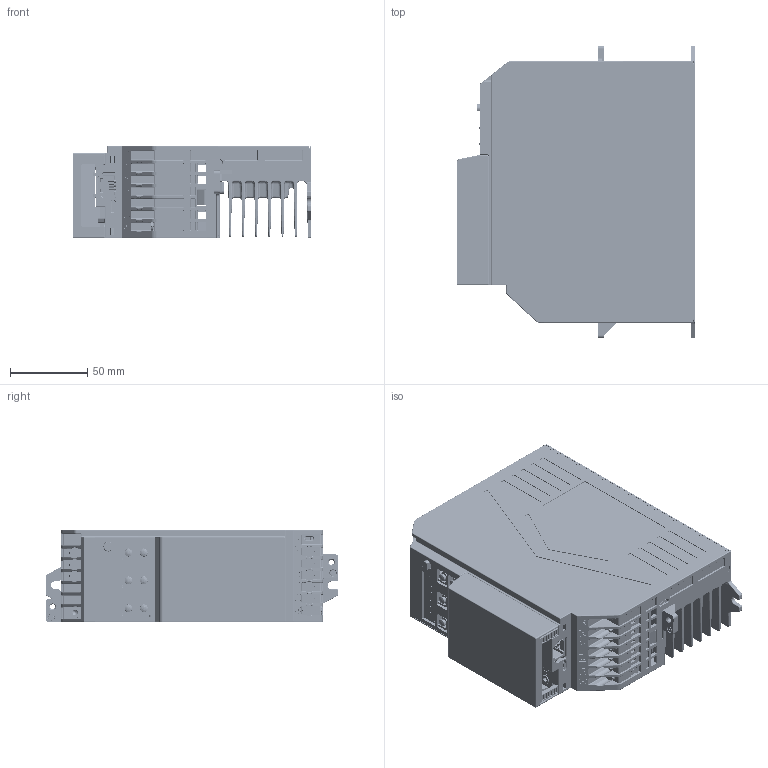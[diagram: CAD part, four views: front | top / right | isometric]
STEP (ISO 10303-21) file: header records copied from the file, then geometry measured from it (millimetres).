
FILE_DESCRIPTION((''),'2;1');
FILE_NAME('GD27-A','2024-07-11T18:00:49',('Administrator'),(''),'CREO PARAMETRIC BY PTC INC, 2019080','CREO PARAMETRIC BY PTC INC, 2019080','');
FILE_SCHEMA(('CONFIG_CONTROL_DESIGN'));
Products named in the file (1): GD27-A
Bounding box: 155 x 190 x 60.04 mm (x, y, z)
Volume: 45186.1 mm3; surface area: 322373.9 mm2
Topology: 4 solids, 25 shells, 8127 faces, 22180 edges, 14250 vertices
Faces by surface type: plane 4710, cylinder 2200, torus 490, extrusion 280, bspline 223, cone 190, sphere 34
Entity records: 285959 total; most frequent: CARTESIAN_POINT 80802, ORIENTED_EDGE 44040, DIRECTION 40532, EDGE_CURVE 22134, VECTOR 15428, LINE 15148, VERTEX_POINT 14250, AXIS2_PLACEMENT_3D 12552
